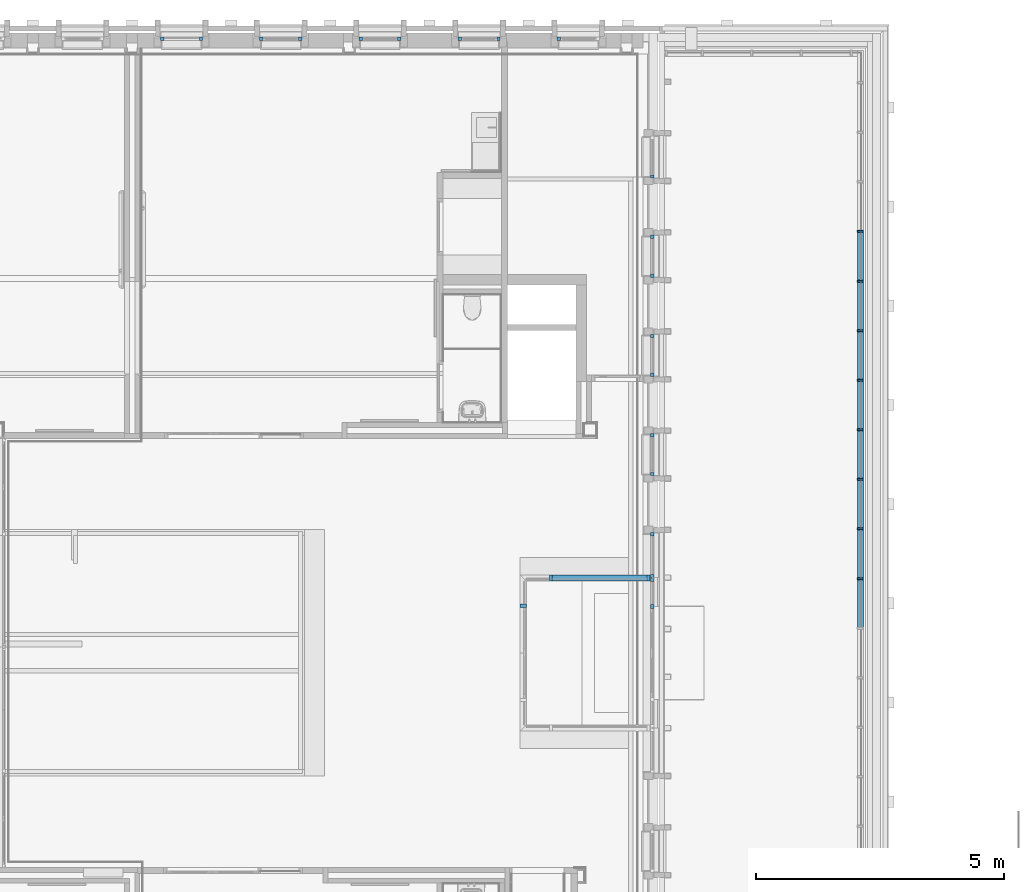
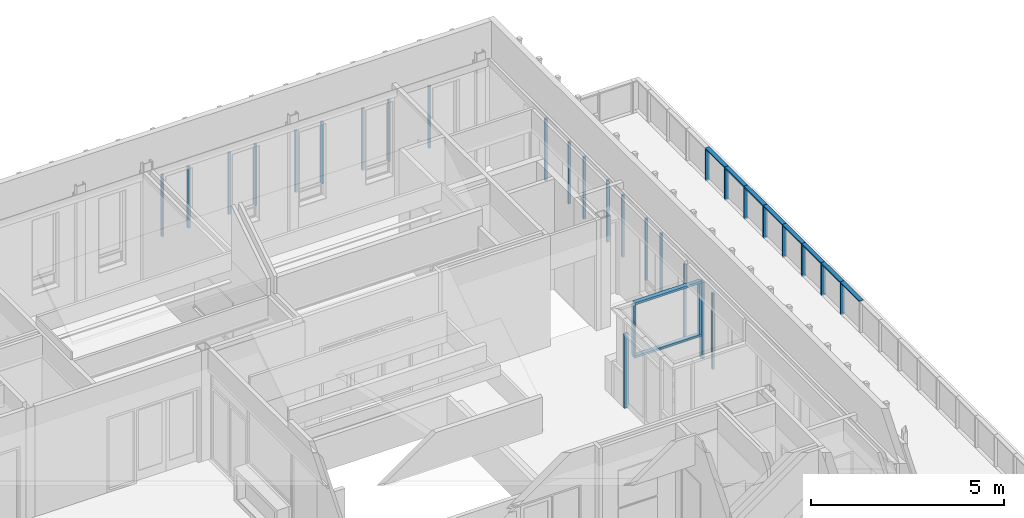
# One storey, part 6 of 118: 41 members, 13 elements without a shape of their own.
"""IFC2X3 building model written with IfcOpenShell, lengths in millimetres."""

from ifc_helpers import new_model, entity, si_unit, converted_unit, derived_unit, direction, frame, origin, origin_2d_with_axis, place, context, subcontext, project, spatial, rectangle, extrude, source, transform, mapped, material, material_list, type_object, type_shapes, element, aggregate, save


model = new_model("IFC2X3")

# Units and contexts
model_context = context("Model", 3, precision=0.01, world=origin(), true_north=direction((6.123031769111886e-17, 1.0)))
plan_context = context("Plan", 3, precision=0.01, world=origin(), true_north=direction((6.123031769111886e-17, 1.0)))
body_context = subcontext(model_context, "Body", "Model", "MODEL_VIEW")
ifc_project = project(units=[si_unit("LENGTHUNIT", "METRE", prefix="MILLI"), si_unit("AREAUNIT", "SQUARE_METRE"), si_unit("VOLUMEUNIT", "CUBIC_METRE"), converted_unit("PLANEANGLEUNIT", "DEGREE", entity("IfcRatioMeasure", 0.017453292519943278), si_unit("PLANEANGLEUNIT", "RADIAN"), dimensions=[0, 0, 0, 0, 0, 0, 0]), si_unit("MASSUNIT", "GRAM", prefix="KILO"), derived_unit("MASSDENSITYUNIT", [(si_unit("MASSUNIT", "GRAM", prefix="KILO"), 1), (si_unit("LENGTHUNIT", "METRE"), -3)]), derived_unit("IONCONCENTRATIONUNIT", [(si_unit("MASSUNIT", "GRAM", prefix="KILO"), 1), (si_unit("LENGTHUNIT", "METRE"), -3)]), derived_unit("MOMENTOFINERTIAUNIT", [(si_unit("LENGTHUNIT", "METRE"), 4)]), si_unit("TIMEUNIT", "SECOND"), si_unit("FREQUENCYUNIT", "HERTZ"), si_unit("THERMODYNAMICTEMPERATUREUNIT", "DEGREE_CELSIUS"), derived_unit("THERMALTRANSMITTANCEUNIT", [(si_unit("MASSUNIT", "GRAM", prefix="KILO"), 1), (si_unit("THERMODYNAMICTEMPERATUREUNIT", "KELVIN"), -1), (si_unit("TIMEUNIT", "SECOND"), -3)]), derived_unit("THERMALCONDUCTANCEUNIT", [(si_unit("MASSUNIT", "GRAM", prefix="KILO"), 1), (si_unit("THERMODYNAMICTEMPERATUREUNIT", "KELVIN"), -1), (si_unit("TIMEUNIT", "SECOND"), -3), (si_unit("LENGTHUNIT", "METRE"), 1)]), derived_unit("VOLUMETRICFLOWRATEUNIT", [(si_unit("LENGTHUNIT", "METRE"), 3), (si_unit("TIMEUNIT", "SECOND"), -1)]), derived_unit("MASSFLOWRATEUNIT", [(si_unit("MASSUNIT", "GRAM", prefix="KILO"), 1), (si_unit("TIMEUNIT", "SECOND"), -1)]), derived_unit("ROTATIONALFREQUENCYUNIT", [(si_unit("TIMEUNIT", "SECOND"), -1)]), si_unit("ELECTRICCURRENTUNIT", "AMPERE"), si_unit("ELECTRICVOLTAGEUNIT", "VOLT"), si_unit("POWERUNIT", "WATT"), si_unit("FORCEUNIT", "NEWTON", prefix="KILO"), si_unit("ILLUMINANCEUNIT", "LUX"), si_unit("LUMINOUSFLUXUNIT", "LUMEN"), si_unit("LUMINOUSINTENSITYUNIT", "CANDELA"), derived_unit("USERDEFINED", [(si_unit("MASSUNIT", "GRAM", prefix="KILO"), -1), (si_unit("LENGTHUNIT", "METRE"), -2), (si_unit("TIMEUNIT", "SECOND"), 3), (si_unit("LUMINOUSFLUXUNIT", "LUMEN"), 1)]), derived_unit("USERDEFINED", [(si_unit("MASSUNIT", "GRAM", prefix="KILO"), 1), (si_unit("TIMEUNIT", "SECOND"), -3), (si_unit("LENGTHUNIT", "METRE"), 3), (si_unit("ELECTRICCURRENTUNIT", "AMPERE"), -2)]), derived_unit("SOUNDPOWERUNIT", [(si_unit("MASSUNIT", "GRAM", prefix="KILO"), 1), (si_unit("TIMEUNIT", "SECOND"), -3), (si_unit("LENGTHUNIT", "METRE"), 2)]), derived_unit("SOUNDPRESSUREUNIT", [(si_unit("MASSUNIT", "GRAM", prefix="KILO"), 1), (si_unit("LENGTHUNIT", "METRE"), -1), (si_unit("TIMEUNIT", "SECOND"), -2)]), derived_unit("LINEARVELOCITYUNIT", [(si_unit("LENGTHUNIT", "METRE"), 1), (si_unit("TIMEUNIT", "SECOND"), -1)]), si_unit("PRESSUREUNIT", "PASCAL"), derived_unit("USERDEFINED", [(si_unit("MASSUNIT", "GRAM", prefix="KILO"), 1), (si_unit("LENGTHUNIT", "METRE"), -2), (si_unit("TIMEUNIT", "SECOND"), -2)]), derived_unit("LINEARFORCEUNIT", [(si_unit("MASSUNIT", "GRAM", prefix="KILO"), 1), (si_unit("TIMEUNIT", "SECOND"), -2)]), derived_unit("PLANARFORCEUNIT", [(si_unit("MASSUNIT", "GRAM", prefix="KILO"), 1), (si_unit("LENGTHUNIT", "METRE"), -1), (si_unit("TIMEUNIT", "SECOND"), -2)]), derived_unit("SPECIFICHEATCAPACITYUNIT", [(si_unit("THERMODYNAMICTEMPERATUREUNIT", "KELVIN"), -1), (si_unit("LENGTHUNIT", "METRE"), 2), (si_unit("TIMEUNIT", "SECOND"), -2)]), derived_unit("HEATINGVALUEUNIT", [(si_unit("LENGTHUNIT", "METRE"), 2), (si_unit("TIMEUNIT", "SECOND"), -2)]), derived_unit("VAPORPERMEABILITYUNIT", [(si_unit("LENGTHUNIT", "METRE"), -1), (si_unit("TIMEUNIT", "SECOND"), 1)]), derived_unit("DYNAMICVISCOSITYUNIT", [(si_unit("MASSUNIT", "GRAM", prefix="KILO"), 1), (si_unit("TIMEUNIT", "SECOND"), -1), (si_unit("LENGTHUNIT", "METRE"), -1)]), derived_unit("THERMALEXPANSIONCOEFFICIENTUNIT", [(si_unit("THERMODYNAMICTEMPERATUREUNIT", "KELVIN"), -1)]), derived_unit("MODULUSOFELASTICITYUNIT", [(si_unit("MASSUNIT", "GRAM", prefix="KILO"), 1), (si_unit("LENGTHUNIT", "METRE"), -1), (si_unit("TIMEUNIT", "SECOND"), -2)]), derived_unit("ISOTHERMALMOISTURECAPACITYUNIT", [(si_unit("LENGTHUNIT", "METRE"), 3), (si_unit("MASSUNIT", "GRAM", prefix="KILO"), -1)]), derived_unit("MOISTUREDIFFUSIVITYUNIT", [(si_unit("TIMEUNIT", "SECOND"), -1), (si_unit("LENGTHUNIT", "METRE"), 2)])], contexts=[model_context, plan_context])

# Site, building, storey
site_placement = place(None, origin())
site = spatial("IfcSite", under=ifc_project, at=site_placement, Name="Locatie", CompositionType="ELEMENT")
building_placement = place(site_placement, origin())
building = spatial("IfcBuilding", under=site, at=building_placement, Name="Bouwwerk", CompositionType="ELEMENT")
storey_placement = place(building_placement, frame((0.0, 0.0, 7800.0)))
storey = spatial("IfcBuildingStorey", under=building, at=storey_placement, Name="02 tweede verdieping", CompositionType="ELEMENT", Elevation=7800.000000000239)

# Curtain wall, member
curtain_wall_type_1 = type_object("IfcCurtainWallType", Name="Curtain Wall:NLRS_21_CW_Ontwerpkozijn_aluminium_RT72", PredefinedType="NOTDEFINED")
curtain_wall_1_placement = place(storey_placement, frame((0.0, 0.0, -7800.0)))
curtain_wall_1 = element("IfcCurtainWall", 1, at=curtain_wall_1_placement, inside=storey, type_object=curtain_wall_type_1, Name="Curtain Wall:NLRS_21_CW_Ontwerpkozijn_aluminium_RT72", ObjectType="Curtain Wall:NLRS_21_CW_Ontwerpkozijn_aluminium_RT72")
ifc_material_1 = material(Name="a_kozijn")
ifc_material_2 = material(Name="<Unnamed>")
ifc_material_list = material_list([ifc_material_2, ifc_material_1])
member_type_1 = type_object("IfcMemberType", Name="Rectangular Mullion:RT72_Hr_raam", PredefinedType="MULLION", material=ifc_material_list)
shared_shape_1 = source(origin(), body_context, "Body", "SweptSolid", [
    extrude(rectangle(XDim=71.99999999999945, YDim=68.00000000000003, at=origin_2d_with_axis()), frame((-34.0, -36.0, -1953.0), z_axis=(0.0, 0.0, 1.0), x_axis=(0.0, -1.0, 0.0)), (0.0, 0.0, 1.0), 1952.9999999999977),
])
type_shapes(member_type_1, [shared_shape_1])
member_1_placement = place(curtain_wall_1_placement, frame((34753.0, 28625.0, 10795.0), z_axis=(0.0, 0.0, 1.0), x_axis=(0.0, 1.0, 0.0)))
member_1 = element("IfcMember", 2, at=member_1_placement, type_object=member_type_1, material=ifc_material_1, Name="Rectangular Mullion:RT72_Hr_raam", ObjectType="Rectangular Mullion:RT72_Hr_raam", context=body_context, shape_type="MappedRepresentation", body=[
    mapped(shared_shape_1, transform((0.0, 0.0, 0.0), scale=1.0)),
])

curtain_wall_2_placement = place(storey_placement, frame((0.0, 0.0, -7800.0)))
curtain_wall_2 = element("IfcCurtainWall", 3, at=curtain_wall_2_placement, inside=storey, type_object=curtain_wall_type_1, Name="Curtain Wall:NLRS_21_CW_Ontwerpkozijn_aluminium_RT72", ObjectType="Curtain Wall:NLRS_21_CW_Ontwerpkozijn_aluminium_RT72")
member_2_placement = place(curtain_wall_2_placement, frame((34753.0, 30625.0, 10795.0), z_axis=(0.0, 0.0, 1.0), x_axis=(0.0, 1.0, 0.0)))
member_2 = element("IfcMember", 4, at=member_2_placement, type_object=member_type_1, material=ifc_material_1, Name="Rectangular Mullion:RT72_Hr_raam", ObjectType="Rectangular Mullion:RT72_Hr_raam", context=body_context, shape_type="MappedRepresentation", body=[
    mapped(shared_shape_1, transform((0.0, 0.0, 0.0), scale=1.0)),
])

curtain_wall_3_placement = place(storey_placement, frame((0.0, 0.0, -7800.0)))
curtain_wall_3 = element("IfcCurtainWall", 5, at=curtain_wall_3_placement, inside=storey, type_object=curtain_wall_type_1, Name="Curtain Wall:NLRS_21_CW_Ontwerpkozijn_aluminium_RT72", ObjectType="Curtain Wall:NLRS_21_CW_Ontwerpkozijn_aluminium_RT72")
member_3_placement = place(curtain_wall_3_placement, frame((24875.0, 34553.0, 10795.0), z_axis=(0.0, 0.0, 1.0), x_axis=(-1.0, 0.0, 0.0)))
member_3 = element("IfcMember", 6, at=member_3_placement, type_object=member_type_1, material=ifc_material_1, Name="Rectangular Mullion:RT72_Hr_raam", ObjectType="Rectangular Mullion:RT72_Hr_raam", context=body_context, shape_type="MappedRepresentation", body=[
    mapped(shared_shape_1, transform((0.0, 0.0, 0.0), scale=1.0)),
])

curtain_wall_4_placement = place(storey_placement, frame((0.0, 0.0, -7800.0)))
curtain_wall_4 = element("IfcCurtainWall", 7, at=curtain_wall_4_placement, inside=storey, type_object=curtain_wall_type_1, Name="Curtain Wall:NLRS_21_CW_Ontwerpkozijn_aluminium_RT72", ObjectType="Curtain Wall:NLRS_21_CW_Ontwerpkozijn_aluminium_RT72")
member_4_placement = place(curtain_wall_4_placement, frame((32875.0, 34553.0, 10795.0), z_axis=(0.0, 0.0, 1.0), x_axis=(-1.0, 0.0, 0.0)))
member_4 = element("IfcMember", 8, at=member_4_placement, type_object=member_type_1, material=ifc_material_1, Name="Rectangular Mullion:RT72_Hr_raam", ObjectType="Rectangular Mullion:RT72_Hr_raam", context=body_context, shape_type="MappedRepresentation", body=[
    mapped(shared_shape_1, transform((0.0, 0.0, 0.0), scale=1.0)),
])
aggregate(curtain_wall_4, [member_4])

curtain_wall_5_placement = place(storey_placement, frame((0.0, 0.0, -7800.0)))
curtain_wall_5 = element("IfcCurtainWall", 9, at=curtain_wall_5_placement, inside=storey, type_object=curtain_wall_type_1, Name="Curtain Wall:NLRS_21_CW_Ontwerpkozijn_aluminium_RT72", ObjectType="Curtain Wall:NLRS_21_CW_Ontwerpkozijn_aluminium_RT72")
member_5_placement = place(curtain_wall_5_placement, frame((28875.0, 34553.0, 10795.0), z_axis=(0.0, 0.0, 1.0), x_axis=(-1.0, 0.0, 0.0)))
member_5 = element("IfcMember", 10, at=member_5_placement, type_object=member_type_1, material=ifc_material_1, Name="Rectangular Mullion:RT72_Hr_raam", ObjectType="Rectangular Mullion:RT72_Hr_raam", context=body_context, shape_type="MappedRepresentation", body=[
    mapped(shared_shape_1, transform((0.0, 0.0, 0.0), scale=1.0)),
])

curtain_wall_6_placement = place(storey_placement, frame((0.0, 0.0, -7800.0)))
curtain_wall_6 = element("IfcCurtainWall", 11, at=curtain_wall_6_placement, inside=storey, type_object=curtain_wall_type_1, Name="Curtain Wall:NLRS_21_CW_Ontwerpkozijn_aluminium_RT72", ObjectType="Curtain Wall:NLRS_21_CW_Ontwerpkozijn_aluminium_RT72")
member_6_placement = place(curtain_wall_6_placement, frame((26875.0, 34553.0, 10795.0), z_axis=(0.0, 0.0, 1.0), x_axis=(-1.0, 0.0, 0.0)))
member_6 = element("IfcMember", 12, at=member_6_placement, type_object=member_type_1, material=ifc_material_1, Name="Rectangular Mullion:RT72_Hr_raam", ObjectType="Rectangular Mullion:RT72_Hr_raam", context=body_context, shape_type="MappedRepresentation", body=[
    mapped(shared_shape_1, transform((0.0, 0.0, 0.0), scale=1.0)),
])

curtain_wall_7_placement = place(storey_placement, frame((0.0, 0.0, -7800.0)))
curtain_wall_7 = element("IfcCurtainWall", 13, at=curtain_wall_7_placement, inside=storey, type_object=curtain_wall_type_1, Name="Curtain Wall:NLRS_21_CW_Ontwerpkozijn_aluminium_RT72", ObjectType="Curtain Wall:NLRS_21_CW_Ontwerpkozijn_aluminium_RT72")
member_7_placement = place(curtain_wall_7_placement, frame((34753.0, 26625.0, 10795.0), z_axis=(0.0, 0.0, 1.0), x_axis=(0.0, 1.0, 0.0)))
member_7 = element("IfcMember", 14, at=member_7_placement, type_object=member_type_1, material=ifc_material_1, Name="Rectangular Mullion:RT72_Hr_raam", ObjectType="Rectangular Mullion:RT72_Hr_raam", context=body_context, shape_type="MappedRepresentation", body=[
    mapped(shared_shape_1, transform((0.0, 0.0, 0.0), scale=1.0)),
])

curtain_wall_8_placement = place(storey_placement, frame((0.0, 0.0, -7800.0)))
curtain_wall_8 = element("IfcCurtainWall", 15, at=curtain_wall_8_placement, inside=storey, type_object=curtain_wall_type_1, Name="Curtain Wall:NLRS_21_CW_Ontwerpkozijn_aluminium_RT72", ObjectType="Curtain Wall:NLRS_21_CW_Ontwerpkozijn_aluminium_RT72")
member_8_placement = place(curtain_wall_8_placement, frame((30875.0, 34553.0, 10795.0), z_axis=(0.0, 0.0, 1.0), x_axis=(-1.0, 0.0, 0.0)))
member_8 = element("IfcMember", 16, at=member_8_placement, type_object=member_type_1, material=ifc_material_1, Name="Rectangular Mullion:RT72_Hr_raam", ObjectType="Rectangular Mullion:RT72_Hr_raam", context=body_context, shape_type="MappedRepresentation", body=[
    mapped(shared_shape_1, transform((0.0, 0.0, 0.0), scale=1.0)),
])

# Member
member_type_2 = type_object("IfcMemberType", Name="Rectangular Mullion:RT72_Hl_raam", PredefinedType="MULLION", material=ifc_material_list)
shared_shape_2 = source(origin(), body_context, "Body", "SweptSolid", [
    extrude(rectangle(XDim=71.99999999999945, YDim=68.00000000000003, at=origin_2d_with_axis()), frame((-34.0, -36.0, -1953.0), z_axis=(0.0, 0.0, 1.0), x_axis=(0.0, -1.0, 0.0)), (0.0, 0.0, 1.0), 1952.9999999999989),
])
type_shapes(member_type_2, [shared_shape_2])
member_9_placement = place(curtain_wall_1_placement, frame((34753.0, 27775.0, 8842.0), z_axis=(0.0, 0.0, -1.0), x_axis=(0.0, -1.0, 0.0)))
member_9 = element("IfcMember", 17, at=member_9_placement, type_object=member_type_2, material=ifc_material_1, Name="Rectangular Mullion:RT72_Hl_raam", ObjectType="Rectangular Mullion:RT72_Hl_raam", context=body_context, shape_type="MappedRepresentation", body=[
    mapped(shared_shape_2, transform((0.0, 0.0, 0.0), scale=1.0)),
])

aggregate(curtain_wall_1, [member_1, member_9])

member_10_placement = place(curtain_wall_2_placement, frame((34753.0, 29775.0, 8842.0), z_axis=(0.0, 0.0, -1.0), x_axis=(0.0, -1.0, 0.0)))
member_10 = element("IfcMember", 18, at=member_10_placement, type_object=member_type_2, material=ifc_material_1, Name="Rectangular Mullion:RT72_Hl_raam", ObjectType="Rectangular Mullion:RT72_Hl_raam", context=body_context, shape_type="MappedRepresentation", body=[
    mapped(shared_shape_2, transform((0.0, 0.0, 0.0), scale=1.0)),
])

aggregate(curtain_wall_2, [member_2, member_10])

member_11_placement = place(curtain_wall_3_placement, frame((25725.0, 34553.0, 8842.0), z_axis=(0.0, 0.0, -1.0), x_axis=(1.0, 0.0, 0.0)))
member_11 = element("IfcMember", 19, at=member_11_placement, type_object=member_type_2, material=ifc_material_1, Name="Rectangular Mullion:RT72_Hl_raam", ObjectType="Rectangular Mullion:RT72_Hl_raam", context=body_context, shape_type="MappedRepresentation", body=[
    mapped(shared_shape_2, transform((0.0, 0.0, 0.0), scale=1.0)),
])

aggregate(curtain_wall_3, [member_3, member_11])

member_12_placement = place(curtain_wall_5_placement, frame((29725.0, 34553.0, 8842.0), z_axis=(0.0, 0.0, -1.0), x_axis=(1.0, 0.0, 0.0)))
member_12 = element("IfcMember", 20, at=member_12_placement, type_object=member_type_2, material=ifc_material_1, Name="Rectangular Mullion:RT72_Hl_raam", ObjectType="Rectangular Mullion:RT72_Hl_raam", context=body_context, shape_type="MappedRepresentation", body=[
    mapped(shared_shape_2, transform((0.0, 0.0, 0.0), scale=1.0)),
])

aggregate(curtain_wall_5, [member_5, member_12])

member_13_placement = place(curtain_wall_6_placement, frame((27725.0, 34553.0, 8842.0), z_axis=(0.0, 0.0, -1.0), x_axis=(1.0, 0.0, 0.0)))
member_13 = element("IfcMember", 21, at=member_13_placement, type_object=member_type_2, material=ifc_material_1, Name="Rectangular Mullion:RT72_Hl_raam", ObjectType="Rectangular Mullion:RT72_Hl_raam", context=body_context, shape_type="MappedRepresentation", body=[
    mapped(shared_shape_2, transform((0.0, 0.0, 0.0), scale=1.0)),
])

aggregate(curtain_wall_6, [member_6, member_13])

member_14_placement = place(curtain_wall_7_placement, frame((34753.0, 25775.0, 8842.0), z_axis=(0.0, 0.0, -1.0), x_axis=(0.0, -1.0, 0.0)))
member_14 = element("IfcMember", 22, at=member_14_placement, type_object=member_type_2, material=ifc_material_1, Name="Rectangular Mullion:RT72_Hl_raam", ObjectType="Rectangular Mullion:RT72_Hl_raam", context=body_context, shape_type="MappedRepresentation", body=[
    mapped(shared_shape_2, transform((0.0, 0.0, 0.0), scale=1.0)),
])

aggregate(curtain_wall_7, [member_7, member_14])

# Curtain wall, member
curtain_wall_9_placement = place(storey_placement, frame((0.0, 0.0, -7800.0)))
curtain_wall_9 = element("IfcCurtainWall", 23, at=curtain_wall_9_placement, inside=storey, type_object=curtain_wall_type_1, Name="Curtain Wall:NLRS_21_CW_Ontwerpkozijn_aluminium_RT72", ObjectType="Curtain Wall:NLRS_21_CW_Ontwerpkozijn_aluminium_RT72")
member_15_placement = place(curtain_wall_9_placement, frame((34753.0, 31775.0, 8842.0), z_axis=(0.0, 0.0, -1.0), x_axis=(0.0, -1.0, 0.0)))
member_15 = element("IfcMember", 24, at=member_15_placement, type_object=member_type_2, material=ifc_material_1, Name="Rectangular Mullion:RT72_Hl_raam", ObjectType="Rectangular Mullion:RT72_Hl_raam", context=body_context, shape_type="MappedRepresentation", body=[
    mapped(shared_shape_2, transform((0.0, 0.0, 0.0), scale=1.0)),
])
aggregate(curtain_wall_9, [member_15])

# Member
member_16_placement = place(curtain_wall_8_placement, frame((31725.0, 34553.0, 8842.0), z_axis=(0.0, 0.0, -1.0), x_axis=(1.0, 0.0, 0.0)))
member_16 = element("IfcMember", 25, at=member_16_placement, type_object=member_type_2, material=ifc_material_1, Name="Rectangular Mullion:RT72_Hl_raam", ObjectType="Rectangular Mullion:RT72_Hl_raam", context=body_context, shape_type="MappedRepresentation", body=[
    mapped(shared_shape_2, transform((0.0, 0.0, 0.0), scale=1.0)),
])

aggregate(curtain_wall_8, [member_8, member_16])

# Curtain wall, members
curtain_wall_10_placement = place(storey_placement, frame((0.0, 0.0, -7800.0)))
curtain_wall_10 = element("IfcCurtainWall", 26, at=curtain_wall_10_placement, inside=storey, type_object=curtain_wall_type_1, Name="Curtain Wall:NLRS_21_CW_Ontwerpkozijn_aluminium_RT72", ObjectType="Curtain Wall:NLRS_21_CW_Ontwerpkozijn_aluminium_RT72")
member_type_3 = type_object("IfcMemberType", Name="Rectangular Mullion:RT72_Hr_raam", PredefinedType="MULLION", material=ifc_material_list)
shared_shape_3 = source(origin(), body_context, "Body", "SweptSolid", [
    extrude(rectangle(XDim=71.99999999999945, YDim=68.00000000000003, at=origin_2d_with_axis()), frame((-34.0, -36.0, -2432.0), z_axis=(0.0, 0.0, 1.0), x_axis=(0.0, -1.0, 0.0)), (0.0, 0.0, 1.0), 2432.0000000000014),
])
type_shapes(member_type_3, [shared_shape_3])
member_17_placement = place(curtain_wall_10_placement, frame((34753.0, 24625.0, 10556.0), z_axis=(0.0, 0.0, 1.0), x_axis=(0.0, 1.0, 0.0)))
member_17 = element("IfcMember", 27, at=member_17_placement, type_object=member_type_3, material=ifc_material_1, Name="Rectangular Mullion:RT72_Hr_raam", ObjectType="Rectangular Mullion:RT72_Hr_raam", context=body_context, shape_type="MappedRepresentation", body=[
    mapped(shared_shape_3, transform((0.0, 0.0, 0.0), scale=1.0)),
])
member_type_4 = type_object("IfcMemberType", Name="Rectangular Mullion:RT72_Hm_raam_78", PredefinedType="MULLION", material=ifc_material_list)
shared_shape_4 = source(origin(), body_context, "Body", "SweptSolid", [
    extrude(rectangle(XDim=71.99999999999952, YDim=77.99999999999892, at=origin_2d_with_axis()), frame((0.0, -36.0, -2393.0), z_axis=(0.0, 0.0, 1.0), x_axis=(0.0, -1.0, 0.0)), (0.0, 0.0, 1.0), 2393.000000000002),
])
type_shapes(member_type_4, [shared_shape_4])
member_18_placement = place(curtain_wall_10_placement, frame((34753.0, 23139.0, 8124.0), z_axis=(0.0, 0.0, -1.0), x_axis=(0.0, -1.0, 0.0)))
member_18 = element("IfcMember", 28, at=member_18_placement, type_object=member_type_4, material=ifc_material_1, Name="Rectangular Mullion:RT72_Hm_raam_78", ObjectType="Rectangular Mullion:RT72_Hm_raam_78", context=body_context, shape_type="MappedRepresentation", body=[
    mapped(shared_shape_4, transform((0.0, 0.0, 0.0), scale=1.0)),
])
member_type_5 = type_object("IfcMemberType", Name="Rectangular Mullion:RT72_Hl_raam", PredefinedType="MULLION", material=ifc_material_list)
shared_shape_5 = source(origin(), body_context, "Body", "SweptSolid", [
    extrude(rectangle(XDim=71.99999999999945, YDim=68.00000000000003, at=origin_2d_with_axis()), frame((0.0, -36.0, -2432.0), z_axis=(0.0, 0.0, 1.0), x_axis=(0.0, -1.0, 0.0)), (0.0, 0.0, 1.0), 2432.0000000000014),
])
type_shapes(member_type_5, [shared_shape_5])
member_19_placement = place(curtain_wall_10_placement, frame((34753.0, 23749.49999997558, 8124.0), z_axis=(0.0, 0.0, -1.0), x_axis=(0.0, -1.0, 0.0)))
member_19 = element("IfcMember", 29, at=member_19_placement, type_object=member_type_5, material=ifc_material_1, Name="Rectangular Mullion:RT72_Hl_raam", ObjectType="Rectangular Mullion:RT72_Hl_raam", context=body_context, shape_type="MappedRepresentation", body=[
    mapped(shared_shape_5, transform((0.0, 0.0, 0.0), scale=1.0)),
])
member_type_6 = type_object("IfcMemberType", Name="Rectangular Mullion:RT72_Hl_raam", PredefinedType="MULLION", material=ifc_material_list)
shared_shape_6 = source(origin(), body_context, "Body", "SweptSolid", [
    extrude(rectangle(XDim=71.99999999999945, YDim=68.00000000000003, at=origin_2d_with_axis()), frame((0.0, -36.0, -2432.0), z_axis=(0.0, 0.0, 1.0), x_axis=(0.0, -1.0, 0.0)), (0.0, 0.0, 1.0), 2432.0000000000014),
])
type_shapes(member_type_6, [shared_shape_6])
member_20_placement = place(curtain_wall_10_placement, frame((34753.0, 23676.499999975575, 8124.0), z_axis=(0.0, 0.0, -1.0), x_axis=(0.0, -1.0, 0.0)))
member_20 = element("IfcMember", 30, at=member_20_placement, type_object=member_type_6, material=ifc_material_1, Name="Rectangular Mullion:RT72_Hl_raam", ObjectType="Rectangular Mullion:RT72_Hl_raam", context=body_context, shape_type="MappedRepresentation", body=[
    mapped(shared_shape_6, transform((0.0, 0.0, 0.0), scale=1.0)),
])
aggregate(curtain_wall_10, [member_17, member_18, member_19, member_20])

# Curtain wall, member
curtain_wall_type_2 = type_object("IfcCurtainWallType", Name="Curtain Wall:32_ontwerpkozijn binnen 125*67", PredefinedType="NOTDEFINED")
curtain_wall_11_placement = place(storey_placement, frame((0.0, 0.0, -7800.0)))
curtain_wall_11 = element("IfcCurtainWall", 31, at=curtain_wall_11_placement, inside=storey, type_object=curtain_wall_type_2, Name="Curtain Wall:32_ontwerpkozijn binnen 125*67", ObjectType="Curtain Wall:32_ontwerpkozijn binnen 125*67")
ifc_material_3 = material(Name="RAL 9010 - wit")
member_type_7 = type_object("IfcMemberType", Name="Rectangular Mullion:67x125", PredefinedType="MULLION", material=ifc_material_3)
shared_shape_7 = source(origin(), body_context, "Body", "SweptSolid", [
    extrude(rectangle(XDim=125.00000000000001, YDim=67.0, at=origin_2d_with_axis()), frame((-33.5, 62.50000000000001, -2353.4999999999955), z_axis=(0.0, 0.0, 1.0), x_axis=(0.0, -1.0, 0.0)), (0.0, 0.0, 1.0), 2353.4999999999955),
])
type_shapes(member_type_7, [shared_shape_7])
member_21_placement = place(curtain_wall_11_placement, frame((32250.0, 23183.0, 10153.499999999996), z_axis=(0.0, 0.0, 1.0), x_axis=(0.0, 1.0, 0.0)))
member_21 = element("IfcMember", 32, at=member_21_placement, type_object=member_type_7, material=ifc_material_3, Name="Rectangular Mullion:67x125", ObjectType="Rectangular Mullion:67x125", context=body_context, shape_type="MappedRepresentation", body=[
    mapped(shared_shape_7, transform((0.0, 0.0, 0.0), scale=1.0)),
])
aggregate(curtain_wall_11, [member_21])

# Curtain wall, members
curtain_wall_12_placement = place(storey_placement, frame((0.0, 0.0, -7800.0)))
curtain_wall_12 = element("IfcCurtainWall", 33, at=curtain_wall_12_placement, inside=storey, type_object=curtain_wall_type_2, Name="Curtain Wall:32_ontwerpkozijn binnen 125*67", ObjectType="Curtain Wall:32_ontwerpkozijn binnen 125*67")
member_type_8 = type_object("IfcMemberType", Name="Rectangular Mullion:67x125", PredefinedType="MULLION", material=ifc_material_3)
shared_shape_8 = source(origin(), body_context, "Body", "SweptSolid", [
    extrude(rectangle(XDim=125.00000000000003, YDim=67.0, at=origin_2d_with_axis()), frame((-33.5, 62.500000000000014, -1997.3000000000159), z_axis=(0.0, 0.0, 1.0), x_axis=(0.0, -1.0, 0.0)), (0.0, 0.0, 1.0), 1997.3000000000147),
])
type_shapes(member_type_8, [shared_shape_8])
member_22_placement = place(curtain_wall_12_placement, frame((34747.80000000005, 23650.0, 8850.0), z_axis=(1.0, 0.0, 0.0), x_axis=(0.0, 0.0, -1.0)))
member_22 = element("IfcMember", 34, at=member_22_placement, type_object=member_type_8, material=ifc_material_3, Name="Rectangular Mullion:67x125", ObjectType="Rectangular Mullion:67x125", context=body_context, shape_type="MappedRepresentation", body=[
    mapped(shared_shape_8, transform((0.0, 0.0, 0.0), scale=1.0)),
])
member_type_9 = type_object("IfcMemberType", Name="Rectangular Mullion:67x125", PredefinedType="MULLION", material=ifc_material_3)
shared_shape_9 = source(origin(), body_context, "Body", "SweptSolid", [
    extrude(rectangle(XDim=125.00000000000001, YDim=67.0, at=origin_2d_with_axis()), frame((-33.5, 62.50000000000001, -1616.0), z_axis=(0.0, 0.0, 1.0), x_axis=(0.0, -1.0, 0.0)), (0.0, 0.0, 1.0), 1616.000000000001),
])
type_shapes(member_type_9, [shared_shape_9])
member_23_placement = place(curtain_wall_12_placement, frame((34747.80000000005, 23650.0, 10533.0)))
member_23 = element("IfcMember", 35, at=member_23_placement, type_object=member_type_9, material=ifc_material_3, Name="Rectangular Mullion:67x125", ObjectType="Rectangular Mullion:67x125", context=body_context, shape_type="MappedRepresentation", body=[
    mapped(shared_shape_9, transform((0.0, 0.0, 0.0), scale=1.0)),
])
member_type_10 = type_object("IfcMemberType", Name="Rectangular Mullion:67x125", PredefinedType="MULLION", material=ifc_material_3)
shared_shape_10 = source(origin(), body_context, "Body", "SweptSolid", [
    extrude(rectangle(XDim=125.00000000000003, YDim=67.0, at=origin_2d_with_axis()), frame((-33.5, 62.500000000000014, -1997.3000000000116), z_axis=(0.0, 0.0, 1.0), x_axis=(0.0, -1.0, 0.0)), (0.0, 0.0, 1.0), 1997.3000000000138),
])
type_shapes(member_type_10, [shared_shape_10])
member_24_placement = place(curtain_wall_12_placement, frame((32750.50000000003, 23650.0, 10600.0), z_axis=(-1.0, 0.0, 0.0), x_axis=(0.0, 0.0, 1.0)))
member_24 = element("IfcMember", 36, at=member_24_placement, type_object=member_type_10, material=ifc_material_3, Name="Rectangular Mullion:67x125", ObjectType="Rectangular Mullion:67x125", context=body_context, shape_type="MappedRepresentation", body=[
    mapped(shared_shape_10, transform((0.0, 0.0, 0.0), scale=1.0)),
])
member_type_11 = type_object("IfcMemberType", Name="Rectangular Mullion:67x125", PredefinedType="MULLION", material=ifc_material_3)
shared_shape_11 = source(origin(), body_context, "Body", "SweptSolid", [
    extrude(rectangle(XDim=125.00000000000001, YDim=67.0, at=origin_2d_with_axis()), frame((0.0, 62.50000000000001, -1616.0), z_axis=(0.0, 0.0, 1.0), x_axis=(0.0, -1.0, 0.0)), (0.0, 0.0, 1.0), 1616.000000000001),
])
type_shapes(member_type_11, [shared_shape_11])
member_25_placement = place(curtain_wall_12_placement, frame((32750.50000000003, 23650.0, 8917.0), z_axis=(0.0, 0.0, -1.0), x_axis=(-1.0, 0.0, 0.0)))
member_25 = element("IfcMember", 37, at=member_25_placement, type_object=member_type_11, material=ifc_material_3, Name="Rectangular Mullion:67x125", ObjectType="Rectangular Mullion:67x125", context=body_context, shape_type="MappedRepresentation", body=[
    mapped(shared_shape_11, transform((0.0, 0.0, 0.0), scale=1.0)),
])
aggregate(curtain_wall_12, [member_22, member_23, member_24, member_25])

curtain_wall_type_3 = type_object("IfcCurtainWallType", Name="Curtain Wall:railing 120x40", PredefinedType="NOTDEFINED")
curtain_wall_13_placement = place(storey_placement, frame((0.0, 0.0, -7800.0)))
curtain_wall_13 = element("IfcCurtainWall", 38, at=curtain_wall_13_placement, inside=storey, type_object=curtain_wall_type_3, Name="Curtain Wall:railing 120x40", ObjectType="Curtain Wall:railing 120x40")
ifc_material_4 = material(Name="staal")
member_type_12 = type_object("IfcMemberType", Name="Rectangular Mullion:40x120 railing", PredefinedType="MULLION", material=ifc_material_4)
shared_shape_12 = source(origin(), body_context, "Body", "SweptSolid", [
    extrude(rectangle(XDim=120.0, YDim=40.0, at=origin_2d_with_axis()), frame((-20.0, 0.0, -1000.0), z_axis=(0.0, 0.0, 1.0), x_axis=(0.0, -1.0, 0.0)), (0.0, 0.0, 1.0), 1000.0000000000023),
])
type_shapes(member_type_12, [shared_shape_12])
member_26_placement = place(curtain_wall_13_placement, frame((38990.0, 23700.0, 9080.0), z_axis=(0.0, 1.0, 0.0), x_axis=(0.0, 0.0, 1.0)))
member_26 = element("IfcMember", 39, at=member_26_placement, type_object=member_type_12, material=ifc_material_4, Name="Rectangular Mullion:40x120 railing", ObjectType="Rectangular Mullion:40x120 railing", context=body_context, shape_type="MappedRepresentation", body=[
    mapped(shared_shape_12, transform((0.0, 0.0, 0.0), scale=1.0)),
])
member_27_placement = place(curtain_wall_13_placement, frame((38990.0, 25700.0, 9080.0), z_axis=(0.0, 1.0, 0.0), x_axis=(0.0, 0.0, 1.0)))
member_27 = element("IfcMember", 40, at=member_27_placement, type_object=member_type_12, material=ifc_material_4, Name="Rectangular Mullion:40x120 railing", ObjectType="Rectangular Mullion:40x120 railing", context=body_context, shape_type="MappedRepresentation", body=[
    mapped(shared_shape_12, transform((0.0, 0.0, 0.0), scale=1.0)),
])
member_28_placement = place(curtain_wall_13_placement, frame((38990.0, 27700.0, 9080.0), z_axis=(0.0, 1.0, 0.0), x_axis=(0.0, 0.0, 1.0)))
member_28 = element("IfcMember", 41, at=member_28_placement, type_object=member_type_12, material=ifc_material_4, Name="Rectangular Mullion:40x120 railing", ObjectType="Rectangular Mullion:40x120 railing", context=body_context, shape_type="MappedRepresentation", body=[
    mapped(shared_shape_12, transform((0.0, 0.0, 0.0), scale=1.0)),
])
member_29_placement = place(curtain_wall_13_placement, frame((38990.0, 29700.0, 9080.0), z_axis=(0.0, 1.0, 0.0), x_axis=(0.0, 0.0, 1.0)))
member_29 = element("IfcMember", 42, at=member_29_placement, type_object=member_type_12, material=ifc_material_4, Name="Rectangular Mullion:40x120 railing", ObjectType="Rectangular Mullion:40x120 railing", context=body_context, shape_type="MappedRepresentation", body=[
    mapped(shared_shape_12, transform((0.0, 0.0, 0.0), scale=1.0)),
])
member_30_placement = place(curtain_wall_13_placement, frame((38990.0, 30700.0, 9080.0), z_axis=(0.0, 1.0, 0.0), x_axis=(0.0, 0.0, 1.0)))
member_30 = element("IfcMember", 43, at=member_30_placement, type_object=member_type_12, material=ifc_material_4, Name="Rectangular Mullion:40x120 railing", ObjectType="Rectangular Mullion:40x120 railing", context=body_context, shape_type="MappedRepresentation", body=[
    mapped(shared_shape_12, transform((0.0, 0.0, 0.0), scale=1.0)),
])
member_31_placement = place(curtain_wall_13_placement, frame((38990.0, 28700.0, 9080.0), z_axis=(0.0, 1.0, 0.0), x_axis=(0.0, 0.0, 1.0)))
member_31 = element("IfcMember", 44, at=member_31_placement, type_object=member_type_12, material=ifc_material_4, Name="Rectangular Mullion:40x120 railing", ObjectType="Rectangular Mullion:40x120 railing", context=body_context, shape_type="MappedRepresentation", body=[
    mapped(shared_shape_12, transform((0.0, 0.0, 0.0), scale=1.0)),
])
member_32_placement = place(curtain_wall_13_placement, frame((38990.0, 24700.0, 9080.0), z_axis=(0.0, 1.0, 0.0), x_axis=(0.0, 0.0, 1.0)))
member_32 = element("IfcMember", 45, at=member_32_placement, type_object=member_type_12, material=ifc_material_4, Name="Rectangular Mullion:40x120 railing", ObjectType="Rectangular Mullion:40x120 railing", context=body_context, shape_type="MappedRepresentation", body=[
    mapped(shared_shape_12, transform((0.0, 0.0, 0.0), scale=1.0)),
])
member_33_placement = place(curtain_wall_13_placement, frame((38990.0, 26700.0, 9080.0), z_axis=(0.0, 1.0, 0.0), x_axis=(0.0, 0.0, 1.0)))
member_33 = element("IfcMember", 46, at=member_33_placement, type_object=member_type_12, material=ifc_material_4, Name="Rectangular Mullion:40x120 railing", ObjectType="Rectangular Mullion:40x120 railing", context=body_context, shape_type="MappedRepresentation", body=[
    mapped(shared_shape_12, transform((0.0, 0.0, 0.0), scale=1.0)),
])
member_type_13 = type_object("IfcMemberType", Name="Rectangular Mullion:40x120 railing", PredefinedType="MULLION", material=ifc_material_4)
shared_shape_13 = source(origin(), body_context, "Body", "SweptSolid", [
    extrude(rectangle(XDim=120.0, YDim=40.0, at=origin_2d_with_axis()), frame((0.0, 0.0, -1007.0), z_axis=(0.0, 0.0, 1.0), x_axis=(0.0, -1.0, 0.0)), (0.0, 0.0, 1.0), 1007.0000000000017),
])
type_shapes(member_type_13, [shared_shape_13])
member_34_placement = place(curtain_wall_13_placement, frame((38990.0, 23700.0, 8033.0), z_axis=(0.0, 0.0, -1.0), x_axis=(0.0, 1.0, 0.0)))
member_34 = element("IfcMember", 47, at=member_34_placement, type_object=member_type_13, material=ifc_material_4, Name="Rectangular Mullion:40x120 railing", ObjectType="Rectangular Mullion:40x120 railing", context=body_context, shape_type="MappedRepresentation", body=[
    mapped(shared_shape_13, transform((0.0, 0.0, 0.0), scale=1.0)),
])
member_35_placement = place(curtain_wall_13_placement, frame((38990.0, 25700.0, 8033.0), z_axis=(0.0, 0.0, -1.0), x_axis=(0.0, 1.0, 0.0)))
member_35 = element("IfcMember", 48, at=member_35_placement, type_object=member_type_13, material=ifc_material_4, Name="Rectangular Mullion:40x120 railing", ObjectType="Rectangular Mullion:40x120 railing", context=body_context, shape_type="MappedRepresentation", body=[
    mapped(shared_shape_13, transform((0.0, 0.0, 0.0), scale=1.0)),
])
member_36_placement = place(curtain_wall_13_placement, frame((38990.0, 27700.0, 8033.0), z_axis=(0.0, 0.0, -1.0), x_axis=(0.0, 1.0, 0.0)))
member_36 = element("IfcMember", 49, at=member_36_placement, type_object=member_type_13, material=ifc_material_4, Name="Rectangular Mullion:40x120 railing", ObjectType="Rectangular Mullion:40x120 railing", context=body_context, shape_type="MappedRepresentation", body=[
    mapped(shared_shape_13, transform((0.0, 0.0, 0.0), scale=1.0)),
])
member_37_placement = place(curtain_wall_13_placement, frame((38990.0, 29700.0, 8033.0), z_axis=(0.0, 0.0, -1.0), x_axis=(0.0, 1.0, 0.0)))
member_37 = element("IfcMember", 50, at=member_37_placement, type_object=member_type_13, material=ifc_material_4, Name="Rectangular Mullion:40x120 railing", ObjectType="Rectangular Mullion:40x120 railing", context=body_context, shape_type="MappedRepresentation", body=[
    mapped(shared_shape_13, transform((0.0, 0.0, 0.0), scale=1.0)),
])
member_38_placement = place(curtain_wall_13_placement, frame((38990.0, 30700.0, 8033.0), z_axis=(0.0, 0.0, -1.0), x_axis=(0.0, 1.0, 0.0)))
member_38 = element("IfcMember", 51, at=member_38_placement, type_object=member_type_13, material=ifc_material_4, Name="Rectangular Mullion:40x120 railing", ObjectType="Rectangular Mullion:40x120 railing", context=body_context, shape_type="MappedRepresentation", body=[
    mapped(shared_shape_13, transform((0.0, 0.0, 0.0), scale=1.0)),
])
member_39_placement = place(curtain_wall_13_placement, frame((38990.0, 28700.0, 8033.0), z_axis=(0.0, 0.0, -1.0), x_axis=(0.0, 1.0, 0.0)))
member_39 = element("IfcMember", 52, at=member_39_placement, type_object=member_type_13, material=ifc_material_4, Name="Rectangular Mullion:40x120 railing", ObjectType="Rectangular Mullion:40x120 railing", context=body_context, shape_type="MappedRepresentation", body=[
    mapped(shared_shape_13, transform((0.0, 0.0, 0.0), scale=1.0)),
])
member_40_placement = place(curtain_wall_13_placement, frame((38990.0, 24700.0, 8033.0), z_axis=(0.0, 0.0, -1.0), x_axis=(0.0, 1.0, 0.0)))
member_40 = element("IfcMember", 53, at=member_40_placement, type_object=member_type_13, material=ifc_material_4, Name="Rectangular Mullion:40x120 railing", ObjectType="Rectangular Mullion:40x120 railing", context=body_context, shape_type="MappedRepresentation", body=[
    mapped(shared_shape_13, transform((0.0, 0.0, 0.0), scale=1.0)),
])
member_41_placement = place(curtain_wall_13_placement, frame((38990.0, 26700.0, 8033.0), z_axis=(0.0, 0.0, -1.0), x_axis=(0.0, 1.0, 0.0)))
member_41 = element("IfcMember", 54, at=member_41_placement, type_object=member_type_13, material=ifc_material_4, Name="Rectangular Mullion:40x120 railing", ObjectType="Rectangular Mullion:40x120 railing", context=body_context, shape_type="MappedRepresentation", body=[
    mapped(shared_shape_13, transform((0.0, 0.0, 0.0), scale=1.0)),
])
aggregate(curtain_wall_13, [member_26, member_34, member_27, member_35, member_28, member_36, member_29, member_37, member_30, member_38, member_31, member_39, member_32, member_40, member_33, member_41])

save(model, "model.ifc")
